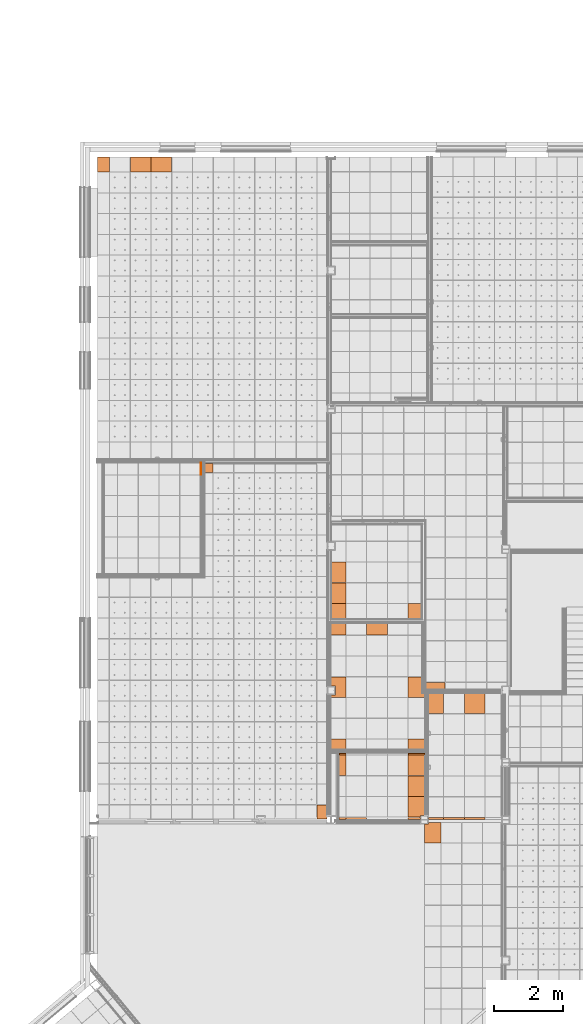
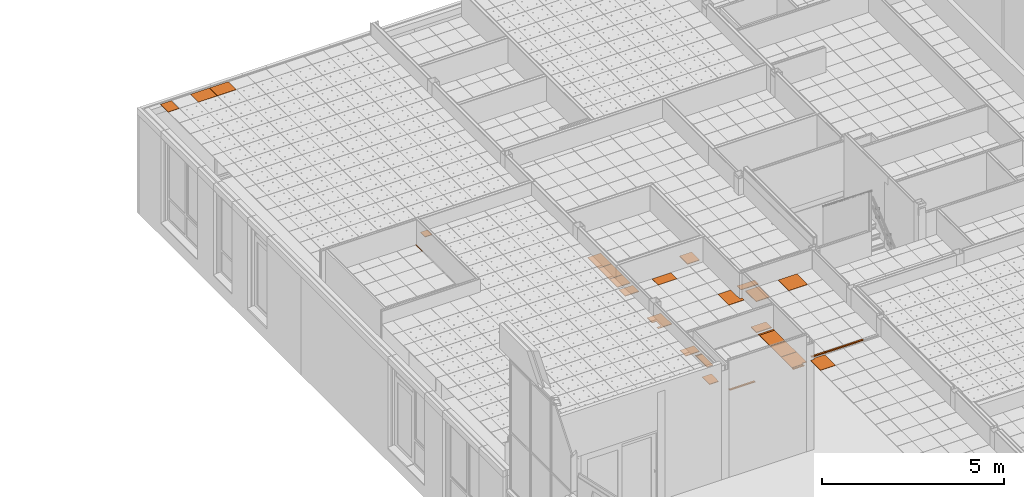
# One storey, part 332 of 338: 32 proxies, 9 elements without a shape of their own.
"""IFC2X3 building model written with IfcOpenShell, lengths in millimetres."""

from ifc_helpers import new_model, entity, si_unit, converted_unit, derived_unit, money_unit, direction, frame, origin_with_axes, place, context, subcontext, project, spatial, faceted_brep, material, type_object, element, aggregate, save


model = new_model("IFC2X3")

# Units and contexts
model_context = context("Model", 3, precision=0.01, world=origin_with_axes(), true_north=direction((0.0, 1.0)))
plan_context = context("Plan", 3, precision=0.01, world=origin_with_axes(), true_north=direction((0.0, 1.0)))
body_context = subcontext(model_context, "Body", "Model", "MODEL_VIEW")
ifc_project = project(units=[si_unit("LENGTHUNIT", "METRE", prefix="MILLI"), si_unit("AREAUNIT", "SQUARE_METRE"), si_unit("VOLUMEUNIT", "CUBIC_METRE"), converted_unit("PLANEANGLEUNIT", "DEGREE", entity("IfcPlaneAngleMeasure", 0.0174532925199), si_unit("PLANEANGLEUNIT", "RADIAN"), dimensions=[0, 0, 0, 0, 0, 0, 0]), money_unit("EUR"), converted_unit("TIMEUNIT", "Year", entity("IfcTimeMeasure", 31556926.0), si_unit("TIMEUNIT", "SECOND"), dimensions=[0, 0, 1, 0, 0, 0, 0]), si_unit("MASSUNIT", "GRAM", prefix="KILO"), si_unit("THERMODYNAMICTEMPERATUREUNIT", "DEGREE_CELSIUS"), si_unit("LUMINOUSINTENSITYUNIT", "LUMEN"), si_unit("ENERGYUNIT", "JOULE", prefix="MEGA"), derived_unit("THERMALCONDUCTANCEUNIT", [(si_unit("POWERUNIT", "WATT"), 1), (si_unit("LENGTHUNIT", "METRE"), -1), (si_unit("THERMODYNAMICTEMPERATUREUNIT", "KELVIN"), -1)]), derived_unit("SPECIFICHEATCAPACITYUNIT", [(si_unit("ENERGYUNIT", "JOULE"), 1), (si_unit("MASSUNIT", "GRAM", prefix="KILO"), -1), (si_unit("THERMODYNAMICTEMPERATUREUNIT", "KELVIN"), -1)]), derived_unit("MASSDENSITYUNIT", [(si_unit("MASSUNIT", "GRAM", prefix="KILO"), 1), (si_unit("VOLUMEUNIT", "CUBIC_METRE"), -1)])], contexts=[model_context, plan_context])

# Site, building, storey
site_placement = place(None, origin_with_axes())
site = spatial("IfcSite", under=ifc_project, at=site_placement, Name="Fortuinstraat Woensdrecht", CompositionType="ELEMENT")
building_placement = place(site_placement, origin_with_axes())
building = spatial("IfcBuilding", under=site, at=building_placement, Name="IKC Fortuna", CompositionType="ELEMENT")
storey_placement = place(building_placement, origin_with_axes())
storey = spatial("IfcBuildingStorey", under=building, at=storey_placement, Name="00 begane grond", CompositionType="ELEMENT", Elevation=0.0)

# Covering, proxies
covering_type = type_object("IfcCoveringType", Name="Curtain Wall Type", PredefinedType="CEILING")
covering_1_placement = place(storey_placement, frame((15059.4416165, 34009.703821, 3210.0), z_axis=(0.0, 0.0, 1.0), x_axis=(1.0, 0.0, 0.0)))
covering_1 = element("IfcCovering", 1, at=covering_1_placement, inside=storey, type_object=covering_type, Name="45_Plafondafwerking_P01", PredefinedType="CEILING")
ifc_material = material(Name="Gipsplaat")
building_element_proxy_type_1 = type_object("IfcBuildingElementProxyType", Name="Main Panel 600 x 437 x 20", PredefinedType="NOTDEFINED")
proxy_1_placement = place(covering_1_placement, frame((0.0, 1118.29638989, 1.7630341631e-10), z_axis=(0.0, 0.0, 1.0), x_axis=(1.0, 0.0, 0.0)))
proxy_1 = element("IfcBuildingElementProxy", 2, at=proxy_1_placement, type_object=building_element_proxy_type_1, material=ifc_material, Name="__Panel-D", context=body_context, shape_type="Brep", body=[
    faceted_brep([(297.5, 215.796387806, -10.0), (-297.5, 215.796387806, -10.0), (-297.5, 215.796387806, 9.99999999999), (297.5, 215.796387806, 9.99999999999), (297.5, -215.796389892, -10.0), (-297.5, -215.796389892, -10.0), (-297.5, -215.796389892, 9.99999999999), (297.5, -215.796389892, 9.99999999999)], [[[0, 1, 2, 3]], [[0, 4, 5, 1]], [[1, 5, 6, 2]], [[3, 2, 6, 7]], [[4, 0, 3, 7]], [[5, 4, 7, 6]]]),
])
proxy_2_placement = place(covering_1_placement, frame((600.0, 1118.29638989, 1.56763491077e-10), z_axis=(0.0, 0.0, 1.0), x_axis=(1.0, 0.0, 0.0)))
proxy_2 = element("IfcBuildingElementProxy", 3, at=proxy_2_placement, type_object=building_element_proxy_type_1, material=ifc_material, Name="__Panel-D", context=body_context, shape_type="Brep", body=[
    faceted_brep([(297.5, 215.796387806, -10.0), (-297.5, 215.796387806, -10.0), (-297.5, 215.796387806, 9.99999999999), (297.5, 215.796387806, 9.99999999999), (297.5, -215.796389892, -10.0), (-297.5, -215.796389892, -10.0), (-297.5, -215.796389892, 9.99999999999), (297.5, -215.796389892, 9.99999999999)], [[[0, 1, 2, 3]], [[0, 4, 5, 1]], [[1, 5, 6, 2]], [[3, 2, 6, 7]], [[4, 0, 3, 7]], [[5, 4, 7, 6]]]),
])
building_element_proxy_type_2 = type_object("IfcBuildingElementProxyType", Name="Main Panel 350 x 437 x 20", PredefinedType="NOTDEFINED")
proxy_3_placement = place(covering_1_placement, frame((-1075.0033381, 1118.29638989, 2.11386463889e-10), z_axis=(0.0, 0.0, 1.0), x_axis=(1.0, 0.0, 0.0)))
proxy_3 = element("IfcBuildingElementProxy", 4, at=proxy_3_placement, type_object=building_element_proxy_type_2, material=ifc_material, Name="__Panel-D", context=body_context, shape_type="Brep", body=[
    faceted_brep([(172.503338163, 215.796387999, -10.0), (-172.503344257, 215.796387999, -10.0), (-172.503344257, 215.796387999, 9.99999999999), (172.503338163, 215.796387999, 9.99999999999), (172.503338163, -215.796387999, -10.0), (-172.503331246, -215.796387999, -10.0), (-172.503331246, -215.796387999, 9.99999999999), (172.503338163, -215.796387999, 9.99999999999)], [[[0, 1, 2, 3]], [[0, 4, 5, 1]], [[1, 5, 6, 2]], [[3, 2, 6, 7]], [[4, 0, 3, 7]], [[5, 4, 7, 6]]]),
])
aggregate(covering_1, [proxy_1, proxy_2, proxy_3])

# Covering, proxy
covering_2_placement = place(storey_placement, frame((21169.4446171, 27661.0834994, 3010.0), z_axis=(0.0, 0.0, 1.0), x_axis=(1.0, 0.0, 0.0)))
covering_2 = element("IfcCovering", 5, at=covering_2_placement, inside=storey, type_object=covering_type, Name="45_Plafondafwerking_P04", PredefinedType="CEILING")
building_element_proxy_type_3 = type_object("IfcBuildingElementProxyType", Name="Distinct Panel 562 x 221 x 20", PredefinedType="NOTDEFINED")
proxy_4_placement = place(covering_2_placement, frame((2419.24516832, -7610.65954794, 0.0), z_axis=(0.0, 0.0, 1.0), x_axis=(1.0, 0.0, 0.0)))
proxy_4 = element("IfcBuildingElementProxy", 6, at=proxy_4_placement, type_object=building_element_proxy_type_3, material=ifc_material, Name="__Panel-D", context=body_context, shape_type="Brep", body=[
    faceted_brep([(-278.254811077, 108.159550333, -10.0), (-278.254811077, 108.159550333, 9.99999999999), (278.254834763, 108.159550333, 9.99999999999), (278.254834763, 108.159550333, -10.0), (-278.254852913, -108.159551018, -10.0), (-278.254852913, -108.159551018, 9.99999999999), (278.254834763, -108.159551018, 9.99999999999), (278.254834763, -108.159551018, -10.0)], [[[0, 1, 2, 3]], [[4, 5, 1, 0]], [[1, 5, 6, 2]], [[3, 2, 6, 7]], [[0, 3, 7, 4]], [[7, 6, 5, 4]]]),
])
aggregate(covering_2, [proxy_4])

covering_3_placement = place(storey_placement, frame((14689.4846177, 25257.3287491, 2810.0), z_axis=(0.0, 0.0, 1.0), x_axis=(1.0, 0.0, 0.0)))
covering_3 = element("IfcCovering", 7, at=covering_3_placement, inside=storey, type_object=covering_type, Name="45_Plafondafwerking_P02", PredefinedType="CEILING")
building_element_proxy_type_4 = type_object("IfcBuildingElementProxyType", Name="Distinct Panel 26 x 350 x 20", PredefinedType="NOTDEFINED")
proxy_5_placement = place(covering_3_placement, frame((2113.02414943, 1074.89113845, 0.0), z_axis=(0.0, 0.0, 1.0), x_axis=(1.0, 0.0, 0.0)))
proxy_5 = element("IfcBuildingElementProxy", 8, at=proxy_5_placement, type_object=building_element_proxy_type_4, material=ifc_material, Name="__Panel-D", context=body_context, shape_type="Brep", body=[
    faceted_brep([(-10.5241503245, 172.391138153, -10.0), (-10.5241503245, 172.391138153, 10.0), (10.5241491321, 172.391138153, 10.0), (10.5241491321, 172.391138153, -10.0), (-10.5241503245, -172.391138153, -10.0), (-10.5241503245, -172.391138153, 10.0), (10.5241491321, -172.391138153, 10.0), (10.5241491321, -172.391138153, -10.0)], [[[0, 1, 2, 3]], [[4, 5, 1, 0]], [[1, 5, 6, 2]], [[3, 2, 6, 7]], [[0, 3, 7, 4]], [[7, 6, 5, 4]]]),
])
aggregate(covering_3, [proxy_5])

# Covering, proxies
covering_4_placement = place(storey_placement, frame((20894.5342271, 16221.6737522, 2810.0), z_axis=(0.0, 0.0, 1.0), x_axis=(1.0, 0.0, 0.0)))
covering_4 = element("IfcCovering", 9, at=covering_4_placement, inside=storey, type_object=covering_type, Name="45_Plafondafwerking_P02", PredefinedType="CEILING")
building_element_proxy_type_5 = type_object("IfcBuildingElementProxyType", Name="Distinct Panel 200 x 67 x 20", PredefinedType="NOTDEFINED")
proxy_6_placement = place(covering_4_placement, origin_with_axes())
proxy_6 = element("IfcBuildingElementProxy", 10, at=proxy_6_placement, type_object=building_element_proxy_type_5, material=ifc_material, Name="__Panel-D", context=body_context, shape_type="Brep", body=[
    faceted_brep([(-97.5000008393, 30.7580425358, -10.0), (-97.5000008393, 30.7580425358, 9.99999999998), (97.5000008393, 30.7580425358, 9.99999999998), (97.5000008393, 30.7580425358, -10.0), (-97.5000008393, -30.7580423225, -10.0), (-97.5000008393, -30.7580423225, 9.99999999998), (97.5000008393, -30.7580423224, 9.99999999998), (97.5000008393, -30.7580423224, -10.0)], [[[0, 1, 2, 3]], [[4, 5, 1, 0]], [[1, 5, 6, 2]], [[3, 2, 6, 7]], [[0, 3, 7, 4]], [[7, 6, 5, 4]]]),
])
building_element_proxy_type_6 = type_object("IfcBuildingElementProxyType", Name="Distinct Panel 200 x 600 x 20", PredefinedType="NOTDEFINED")
proxy_7_placement = place(covering_4_placement, frame((0.0, 1533.25804234, 0.0), z_axis=(0.0, 0.0, 1.0), x_axis=(1.0, 0.0, 0.0)))
proxy_7 = element("IfcBuildingElementProxy", 11, at=proxy_7_placement, type_object=building_element_proxy_type_6, material=ifc_material, Name="__Panel-D", context=body_context, shape_type="Brep", body=[
    faceted_brep([(-97.4999991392, 297.5, -10.0), (-97.4999991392, 297.5, 9.99999999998), (97.5000008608, 297.5, 9.99999999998), (97.5000008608, 297.5, -10.0), (-97.4999991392, -297.5, -10.0), (-97.4999991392, -297.5, 9.99999999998), (97.5000008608, -297.5, 9.99999999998), (97.5000008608, -297.5, -10.0)], [[[0, 1, 2, 3]], [[4, 5, 1, 0]], [[1, 5, 6, 2]], [[3, 2, 6, 7]], [[0, 3, 7, 4]], [[7, 6, 5, 4]]]),
])
building_element_proxy_type_7 = type_object("IfcBuildingElementProxyType", Name="Distinct Panel 200 x 50 x 20", PredefinedType="NOTDEFINED")
proxy_8_placement = place(covering_4_placement, frame((0.0, 1858.24793121, 0.0), z_axis=(0.0, 0.0, 1.0), x_axis=(1.0, 0.0, 0.0)))
proxy_8 = element("IfcBuildingElementProxy", 12, at=proxy_8_placement, type_object=building_element_proxy_type_7, material=ifc_material, Name="__Panel-D", context=body_context, shape_type="Brep", body=[
    faceted_brep([(-97.5000008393, 22.4898966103, -10.0), (-97.5000008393, 22.4898966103, 9.99999999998), (97.5000008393, 22.4898817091, 9.99999999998), (97.5000008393, 22.4898817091, -10.0), (-97.5000008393, -22.4898888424, -10.0), (-97.5000008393, -22.4898888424, 9.99999999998), (97.5000008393, -22.4898888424, 9.99999999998), (97.5000008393, -22.4898888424, -10.0)], [[[0, 1, 2, 3]], [[4, 5, 1, 0]], [[1, 5, 6, 2]], [[3, 2, 6, 7]], [[0, 3, 7, 4]], [[7, 6, 5, 4]]]),
])
building_element_proxy_type_8 = type_object("IfcBuildingElementProxyType", Name="Distinct Panel 488 x 600 x 20", PredefinedType="NOTDEFINED")
proxy_9_placement = place(covering_4_placement, frame((2144.20037203, 933.258042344, 0.0), z_axis=(0.0, 0.0, 1.0), x_axis=(1.0, 0.0, 0.0)))
proxy_9 = element("IfcBuildingElementProxy", 13, at=proxy_9_placement, type_object=building_element_proxy_type_8, material=ifc_material, Name="__Panel-D", context=body_context, shape_type="Brep", body=[
    faceted_brep([(-241.700369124, 297.5, -10.0), (-241.700369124, 297.5, 9.99999999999), (241.700371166, 297.5, 9.99999999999), (241.700371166, 297.5, -10.0), (-241.700369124, -297.5, -10.0), (-241.700369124, -297.5, 9.99999999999), (241.700371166, -297.5, 9.99999999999), (241.700371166, -297.5, -10.0)], [[[0, 1, 2, 3]], [[4, 5, 1, 0]], [[1, 5, 6, 2]], [[3, 2, 6, 7]], [[0, 3, 7, 4]], [[7, 6, 5, 4]]]),
])
proxy_10_placement = place(covering_4_placement, frame((2144.20037203, 1533.25804234, 0.0), z_axis=(0.0, 0.0, 1.0), x_axis=(1.0, 0.0, 0.0)))
proxy_10 = element("IfcBuildingElementProxy", 14, at=proxy_10_placement, type_object=building_element_proxy_type_8, material=ifc_material, Name="__Panel-D", context=body_context, shape_type="Brep", body=[
    faceted_brep([(-241.700369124, 297.5, -10.0), (-241.700369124, 297.5, 9.99999999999), (241.700371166, 297.5, 9.99999999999), (241.700371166, 297.5, -10.0), (-241.700369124, -297.5, -10.0), (-241.700369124, -297.5, 9.99999999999), (241.700371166, -297.5, 9.99999999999), (241.700371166, -297.5, -10.0)], [[[0, 1, 2, 3]], [[4, 5, 1, 0]], [[1, 5, 6, 2]], [[3, 2, 6, 7]], [[0, 3, 7, 4]], [[7, 6, 5, 4]]]),
])
building_element_proxy_type_9 = type_object("IfcBuildingElementProxyType", Name="Distinct Panel 488 x 550 x 20", PredefinedType="NOTDEFINED")
proxy_11_placement = place(covering_4_placement, frame((2180.60050088, 249.879658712, 0.0), z_axis=(0.0, 0.0, 1.0), x_axis=(1.0, 0.0, 0.0)))
proxy_11 = element("IfcBuildingElementProxy", 15, at=proxy_11_placement, type_object=building_element_proxy_type_9, material=ifc_material, Name="__Panel-D", context=body_context, shape_type="Brep", body=[
    faceted_brep([(-278.100497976, 380.878383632, -10.0), (-278.100497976, 380.878383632, 9.99999999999), (205.300242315, 380.878383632, 9.99999999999), (205.300242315, 380.878383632, -10.0), (-278.100497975, -214.121616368, -10.0), (-278.100497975, -214.121616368, 9.99999999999), (70.3002601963, -214.121616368, 9.99999999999), (70.3002601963, -164.256764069, 9.99999999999), (205.300242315, -164.256764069, 9.99999999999), (205.300242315, -164.256764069, -10.0), (70.3002601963, -164.256764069, -10.0), (70.3002601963, -214.121616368, -10.0)], [[[0, 1, 2, 3]], [[4, 5, 1, 0]], [[1, 5, 6, 7, 8, 2]], [[3, 2, 8, 9]], [[0, 3, 9, 10, 11, 4]], [[11, 6, 5, 4]], [[10, 7, 6, 11]], [[9, 8, 7, 10]]]),
])
building_element_proxy_type_10 = type_object("IfcBuildingElementProxyType", Name="Distinct Panel 488 x 50 x 20", PredefinedType="NOTDEFINED")
proxy_12_placement = place(covering_4_placement, frame((2144.20037203, 1858.24794073, 0.0), z_axis=(0.0, 0.0, 1.0), x_axis=(1.0, 0.0, 0.0)))
proxy_12 = element("IfcBuildingElementProxy", 16, at=proxy_12_placement, type_object=building_element_proxy_type_10, material=ifc_material, Name="__Panel-D", context=body_context, shape_type="Brep", body=[
    faceted_brep([(-241.700371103, 22.4898997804, -10.0), (-241.700371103, 22.4898997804, 9.99999999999), (241.700371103, 22.4898997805, 9.99999999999), (241.700371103, 22.4898997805, -10.0), (-241.700371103, -22.4898983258, -10.0), (-241.700371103, -22.4898983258, 9.99999999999), (241.700371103, -22.4898983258, 9.99999999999), (241.700371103, -22.4898983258, -10.0)], [[[0, 1, 2, 3]], [[4, 5, 1, 0]], [[1, 5, 6, 2]], [[3, 2, 6, 7]], [[0, 3, 7, 4]], [[7, 6, 5, 4]]]),
])
building_element_proxy_type_11 = type_object("IfcBuildingElementProxyType", Name="Distinct Panel 600 x 67 x 20", PredefinedType="NOTDEFINED")
proxy_13_placement = place(covering_4_placement, frame((400.000000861, 3.9525076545e-06, 0.0), z_axis=(0.0, 0.0, 1.0), x_axis=(1.0, 0.0, 0.0)))
proxy_13 = element("IfcBuildingElementProxy", 17, at=proxy_13_placement, type_object=building_element_proxy_type_11, material=ifc_material, Name="__Panel-D", context=body_context, shape_type="Brep", body=[
    faceted_brep([(-297.5, 30.7580380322, -10.0), (-297.5, 30.7580380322, 9.99999999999), (297.5, 30.7580380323, 9.99999999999), (297.5, 30.7580380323, -10.0), (-297.5, -30.7580462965, -10.0), (-297.5, -30.7580462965, 9.99999999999), (297.5, -30.7580284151, 9.99999999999), (297.5, -30.7580284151, -10.0)], [[[0, 1, 2, 3]], [[4, 5, 1, 0]], [[1, 5, 6, 2]], [[3, 2, 6, 7]], [[0, 3, 7, 4]], [[7, 6, 5, 4]]]),
])
building_element_proxy_type_12 = type_object("IfcBuildingElementProxyType", Name="Distinct Panel 353 x 67 x 20", PredefinedType="NOTDEFINED")
proxy_14_placement = place(covering_4_placement, frame((2076.70037972, 6.1705236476e-06, 0.0), z_axis=(0.0, 0.0, 1.0), x_axis=(1.0, 0.0, 0.0)))
proxy_14 = element("IfcBuildingElementProxy", 18, at=proxy_14_placement, type_object=building_element_proxy_type_12, material=ifc_material, Name="__Panel-D", context=body_context, shape_type="Brep", body=[
    faceted_brep([(-174.200377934, 30.7580371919, -10.0), (-174.200377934, 30.7580371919, 9.99999999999), (174.200377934, 30.7580371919, 9.99999999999), (174.200377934, 30.7580371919, -10.0), (-174.200377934, -30.7580334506, -10.0), (-174.200377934, -30.7580334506, 9.99999999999), (174.200377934, -30.7580387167, 9.99999999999), (174.200377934, -30.7580387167, -10.0)], [[[0, 1, 2, 3]], [[4, 5, 1, 0]], [[1, 5, 6, 2]], [[3, 2, 6, 7]], [[0, 3, 7, 4]], [[7, 6, 5, 4]]]),
])
aggregate(covering_4, [proxy_6, proxy_7, proxy_8, proxy_9, proxy_10, proxy_11, proxy_12, proxy_13, proxy_14])

covering_5_placement = place(storey_placement, frame((20708.834778, 24017.7308613, 2810.0), z_axis=(0.0, 0.0, 1.0), x_axis=(1.0, 0.0, 0.0)))
covering_5 = element("IfcCovering", 19, at=covering_5_placement, inside=storey, type_object=covering_type, Name="45_Plafondafwerking_P02", PredefinedType="CEILING")
building_element_proxy_type_13 = type_object("IfcBuildingElementProxyType", Name="Distinct Panel 418 x 600 x 20", PredefinedType="NOTDEFINED")
proxy_15_placement = place(covering_5_placement, frame((76.8998179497, -679.565768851, 0.0), z_axis=(0.0, 0.0, 1.0), x_axis=(1.0, 0.0, 0.0)))
proxy_15 = element("IfcBuildingElementProxy", 20, at=proxy_15_placement, type_object=building_element_proxy_type_13, material=ifc_material, Name="__Panel-D", context=body_context, shape_type="Brep", body=[
    faceted_brep([(206.299628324, 297.5, -10.0), (-206.299631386, 297.5, -10.0), (-206.299631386, 297.5, 9.99999999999), (206.299628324, 297.5, 9.99999999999), (206.299628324, -297.5, -10.0), (-206.299631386, -297.5, -10.0), (-206.299631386, -297.5, 9.99999999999), (206.299628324, -297.5, 9.99999999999)], [[[0, 1, 2, 3]], [[0, 4, 5, 1]], [[1, 5, 6, 2]], [[3, 2, 6, 7]], [[4, 0, 3, 7]], [[5, 4, 7, 6]]]),
])
proxy_16_placement = place(covering_5_placement, frame((76.8998203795, -1279.56576885, 0.0), z_axis=(0.0, 0.0, 1.0), x_axis=(1.0, 0.0, 0.0)))
proxy_16 = element("IfcBuildingElementProxy", 21, at=proxy_16_placement, type_object=building_element_proxy_type_13, material=ifc_material, Name="__Panel-D", context=body_context, shape_type="Brep", body=[
    faceted_brep([(206.299625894, 297.5, -10.0), (-206.299633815, 297.5, -10.0), (-206.299633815, 297.5, 9.99999999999), (206.299625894, 297.5, 9.99999999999), (206.299625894, -297.5, -10.0), (-206.299624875, -297.5, -10.0), (-206.299624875, -297.5, 9.99999999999), (206.299625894, -297.5, 9.99999999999)], [[[0, 1, 2, 3]], [[0, 4, 5, 1]], [[1, 5, 6, 2]], [[3, 2, 6, 7]], [[4, 0, 3, 7]], [[5, 4, 7, 6]]]),
])
building_element_proxy_type_14 = type_object("IfcBuildingElementProxyType", Name="Distinct Panel 388 x 450 x 20", PredefinedType="NOTDEFINED")
proxy_17_placement = place(covering_5_placement, frame((2279.89983351, -1804.57871849, 0.0), z_axis=(0.0, 0.0, 1.0), x_axis=(1.0, 0.0, 0.0)))
proxy_17 = element("IfcBuildingElementProxy", 22, at=proxy_17_placement, type_object=building_element_proxy_type_14, material=ifc_material, Name="__Panel-D", context=body_context, shape_type="Brep", body=[
    faceted_brep([(191.700385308, 222.512951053, -10.0), (-191.700385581, 222.512951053, -10.0), (-191.700385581, 222.512951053, 9.99999999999), (191.700385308, 222.512951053, 9.99999999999), (191.700385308, -222.512951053, -10.0), (-191.700385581, -222.512951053, -10.0), (-191.700385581, -222.512951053, 9.99999999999), (191.700385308, -222.512951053, 9.99999999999)], [[[0, 1, 2, 3]], [[0, 4, 5, 1]], [[1, 5, 6, 2]], [[3, 2, 6, 7]], [[4, 0, 3, 7]], [[5, 4, 7, 6]]]),
])
building_element_proxy_type_15 = type_object("IfcBuildingElementProxyType", Name="Distinct Panel 418 x 450 x 20", PredefinedType="NOTDEFINED")
proxy_18_placement = place(covering_5_placement, frame((76.8998228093, -1804.57872316, 0.0), z_axis=(0.0, 0.0, 1.0), x_axis=(1.0, 0.0, 0.0)))
proxy_18 = element("IfcBuildingElementProxy", 23, at=proxy_18_placement, type_object=building_element_proxy_type_15, material=ifc_material, Name="__Panel-D", context=body_context, shape_type="Brep", body=[
    faceted_brep([(206.299625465, 222.512955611, -10.0), (-206.299627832, 222.512955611, -10.0), (-206.299627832, 222.512955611, 9.99999999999), (206.299625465, 222.512955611, 9.99999999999), (206.299625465, -222.512944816, -10.0), (-206.299627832, -222.512964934, -10.0), (-206.299627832, -222.512964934, 9.99999999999), (206.299625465, -222.512944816, 9.99999999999)], [[[0, 1, 2, 3]], [[0, 4, 5, 1]], [[1, 5, 6, 2]], [[3, 2, 6, 7]], [[4, 0, 3, 7]], [[5, 4, 7, 6]]]),
])
aggregate(covering_5, [proxy_15, proxy_17, proxy_18, proxy_16])

covering_6_placement = place(storey_placement, frame((21294.5342274, 19421.5253195, 2810.0), z_axis=(0.0, 0.0, 1.0), x_axis=(1.0, 0.0, 0.0)))
covering_6 = element("IfcCovering", 24, at=covering_6_placement, inside=storey, type_object=covering_type, Name="45_Plafondafwerking_P02", PredefinedType="CEILING")
building_element_proxy_type_16 = type_object("IfcBuildingElementProxyType", Name="Distinct Panel 488 x 317 x 20", PredefinedType="NOTDEFINED")
proxy_19_placement = place(covering_6_placement, frame((1744.2003797, -1058.30688358, 0.0), z_axis=(0.0, 0.0, 1.0), x_axis=(1.0, 0.0, 0.0)))
proxy_19 = element("IfcBuildingElementProxy", 25, at=proxy_19_placement, type_object=building_element_proxy_type_16, material=ifc_material, Name="__Panel-D", context=body_context, shape_type="Brep", body=[
    faceted_brep([(241.700370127, 155.806881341, -10.0), (-241.700379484, 155.806881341, -10.0), (-241.700379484, 155.806881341, 9.99999999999), (241.700370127, 155.806881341, 9.99999999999), (241.70039196, -155.806883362, -10.0), (-241.700379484, -155.806883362, -10.0), (-241.700379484, -155.806883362, 9.99999999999), (241.70039196, -155.806883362, 9.99999999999)], [[[0, 1, 2, 3]], [[0, 4, 5, 1]], [[1, 5, 6, 2]], [[3, 2, 6, 7]], [[4, 0, 3, 7]], [[5, 4, 7, 6]]]),
])
building_element_proxy_type_17 = type_object("IfcBuildingElementProxyType", Name="Distinct Panel 413 x 600 x 20", PredefinedType="NOTDEFINED")
proxy_20_placement = place(covering_6_placement, frame((1800.60049124, 539.413029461, 0.0), z_axis=(0.0, 0.0, 1.0), x_axis=(1.0, 0.0, 0.0)))
proxy_20 = element("IfcBuildingElementProxy", 26, at=proxy_20_placement, type_object=building_element_proxy_type_17, material=ifc_material, Name="__Panel-D", context=body_context, shape_type="Brep", body=[
    faceted_brep([(110.300231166, 358.086970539, -10.0), (-298.100491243, 358.086970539, -10.0), (-298.100491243, 358.086970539, 9.99999999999), (110.300231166, 358.086970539, 9.99999999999), (110.300231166, -123.673937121, -10.0), (185.300257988, -123.673937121, -10.0), (185.300257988, -236.913029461, -10.0), (-298.100491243, -236.913029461, -10.0), (-298.100491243, -236.913029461, 9.99999999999), (185.300257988, -236.913029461, 9.99999999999), (185.300257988, -123.673937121, 9.99999999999), (110.300231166, -123.673937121, 9.99999999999)], [[[0, 1, 2, 3]], [[0, 4, 5, 6, 7, 1]], [[1, 7, 8, 2]], [[3, 2, 8, 9, 10, 11]], [[4, 0, 3, 11]], [[5, 4, 11, 10]], [[6, 5, 10, 9]], [[7, 6, 9, 8]]]),
])
building_element_proxy_type_18 = type_object("IfcBuildingElementProxyType", Name="Distinct Panel 600 x 342 x 20", PredefinedType="NOTDEFINED")
proxy_21_placement = place(covering_6_placement, frame((600.0, 2270.80692216, 0.0), z_axis=(0.0, 0.0, 1.0), x_axis=(1.0, 0.0, 0.0)))
proxy_21 = element("IfcBuildingElementProxy", 27, at=proxy_21_placement, type_object=building_element_proxy_type_18, material=ifc_material, Name="__Panel-D", context=body_context, shape_type="Brep", body=[
    faceted_brep([(297.5, 168.306919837, -10.0), (-297.5, 168.306919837, -10.0), (-297.5, 168.306919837, 9.99999999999), (297.5, 168.306919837, 9.99999999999), (297.5, -168.306922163, -10.0), (-297.5, -168.306922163, -10.0), (-297.5, -168.306922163, 9.99999999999), (297.5, -168.306922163, 9.99999999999)], [[[0, 1, 2, 3]], [[0, 4, 5, 1]], [[1, 5, 6, 2]], [[3, 2, 6, 7]], [[4, 0, 3, 7]], [[5, 4, 7, 6]]]),
])
building_element_proxy_type_19 = type_object("IfcBuildingElementProxyType", Name="Distinct Panel 443 x 277 x 20", PredefinedType="NOTDEFINED")
proxy_22_placement = place(covering_6_placement, frame((-598.199446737, 550.385645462, 0.0), z_axis=(0.0, 0.0, 1.0), x_axis=(1.0, 0.0, 0.0)))
proxy_22 = element("IfcBuildingElementProxy", 28, at=proxy_22_placement, type_object=building_element_proxy_type_19, material=ifc_material, Name="__Panel-D", context=body_context, shape_type="Brep", body=[
    faceted_brep([(295.699450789, 347.114354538, -10.0), (-141.899817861, 347.114354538, -10.0), (-141.899817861, 347.114354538, 9.99999999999), (295.699450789, 347.114354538, 9.99999999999), (295.699450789, -247.885645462, -10.0), (-141.899817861, -247.885645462, -10.0), (-141.899817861, -174.614348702, -10.0), (-6.8998089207, -174.614348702, -10.0), (-6.89980892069, 75.3856423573, -10.0), (-141.899817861, 75.3856423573, -10.0), (-141.899817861, 75.3856423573, 9.99999999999), (-6.89980892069, 75.3856423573, 9.99999999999), (-6.8998089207, -174.614348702, 9.99999999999), (-141.899817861, -174.614348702, 9.99999999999), (-141.899817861, -247.885645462, 9.99999999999), (295.699450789, -247.885645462, 9.99999999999)], [[[0, 1, 2, 3]], [[0, 4, 5, 6, 7, 8, 9, 1]], [[1, 9, 10, 2]], [[3, 2, 10, 11, 12, 13, 14, 15]], [[4, 0, 3, 15]], [[5, 4, 15, 14]], [[6, 5, 14, 13]], [[7, 6, 13, 12]], [[8, 7, 12, 11]], [[9, 8, 11, 10]]]),
])
building_element_proxy_type_20 = type_object("IfcBuildingElementProxyType", Name="Distinct Panel 443 x 342 x 20", PredefinedType="NOTDEFINED")
proxy_23_placement = place(covering_6_placement, frame((-521.299629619, 2270.80692216, 0.0), z_axis=(0.0, 0.0, 1.0), x_axis=(1.0, 0.0, 0.0)))
proxy_23 = element("IfcBuildingElementProxy", 29, at=proxy_23_placement, type_object=building_element_proxy_type_20, material=ifc_material, Name="__Panel-D", context=body_context, shape_type="Brep", body=[
    faceted_brep([(218.799627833, 168.306919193, -10.0), (-218.799626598, 168.306919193, -10.0), (-218.799626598, 168.306919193, 9.99999999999), (218.799627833, 168.306919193, 9.99999999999), (218.799627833, -168.306920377, -10.0), (-218.799633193, -168.306920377, -10.0), (-218.799633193, -168.306920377, 9.99999999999), (218.799627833, -168.306920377, 9.99999999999)], [[[0, 1, 2, 3]], [[0, 4, 5, 1]], [[1, 5, 6, 2]], [[3, 2, 6, 7]], [[4, 0, 3, 7]], [[5, 4, 7, 6]]]),
])
building_element_proxy_type_21 = type_object("IfcBuildingElementProxyType", Name="Distinct Panel 443 x 317 x 20", PredefinedType="NOTDEFINED")
proxy_24_placement = place(covering_6_placement, frame((-521.299636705, -1058.30687837, 0.0), z_axis=(0.0, 0.0, 1.0), x_axis=(1.0, 0.0, 0.0)))
proxy_24 = element("IfcBuildingElementProxy", 30, at=proxy_24_placement, type_object=building_element_proxy_type_21, material=ifc_material, Name="__Panel-D", context=body_context, shape_type="Brep", body=[
    faceted_brep([(218.79963487, 155.806881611, -10.0), (-218.79963487, 155.806881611, -10.0), (-218.79963487, 155.806881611, 9.99999999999), (218.79963487, 155.806881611, 9.99999999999), (218.79963487, -155.806886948, -10.0), (-218.79963487, -155.806867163, -10.0), (-218.79963487, -155.806867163, 9.99999999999), (218.79963487, -155.806886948, 9.99999999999)], [[[0, 1, 2, 3]], [[0, 4, 5, 1]], [[1, 5, 6, 2]], [[3, 2, 6, 7]], [[4, 0, 3, 7]], [[5, 4, 7, 6]]]),
])
aggregate(covering_6, [proxy_19, proxy_20, proxy_21, proxy_22, proxy_23, proxy_24])

covering_7_placement = place(storey_placement, frame((17451.9845996, 24118.5314449, 3210.0), z_axis=(0.0, 0.0, 1.0), x_axis=(1.0, 0.0, 0.0)))
covering_7 = element("IfcCovering", 31, at=covering_7_placement, inside=storey, type_object=covering_type, Name="45_Plafondafwerking_P01", PredefinedType="CEILING")
building_element_proxy_type_22 = type_object("IfcBuildingElementProxyType", Name="300 x 410 x 20", PredefinedType="NOTDEFINED")
proxy_25_placement = place(covering_7_placement, frame((2898.30027932, -7742.98989548, 0.0), z_axis=(0.0, 0.0, 1.0), x_axis=(1.0, 0.0, 0.0)))
proxy_25 = element("IfcBuildingElementProxy", 32, at=proxy_25_placement, type_object=building_element_proxy_type_22, material=ifc_material, Name="__600x735 Rockfon Krios", context=body_context, shape_type="Brep", body=[
    faceted_brep([(99.1501465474, 240.489894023, -10.0), (-195.80027786, 240.489894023, -10.0), (-195.80027786, 240.489894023, 9.99999999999), (99.1501465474, 240.489894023, 9.99999999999), (99.1501587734, -73.2449573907, -10.0), (94.1501252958, -73.2449573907, -10.0), (94.1501252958, -164.744933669, -10.0), (-195.80027786, -164.744933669, -10.0), (-195.80027786, -164.744933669, 9.99999999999), (94.1501252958, -164.744933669, 9.99999999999), (94.1501252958, -73.2449573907, 9.99999999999), (99.1501587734, -73.2449573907, 9.99999999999)], [[[0, 1, 2, 3]], [[0, 4, 5, 6, 7, 1]], [[1, 7, 8, 2]], [[3, 2, 8, 9, 10, 11]], [[4, 0, 3, 11]], [[5, 4, 11, 10]], [[6, 5, 10, 9]], [[7, 6, 9, 8]]]),
])
building_element_proxy_type_23 = type_object("IfcBuildingElementProxyType", Name="232 x 264 x 20", PredefinedType="NOTDEFINED")
proxy_26_placement = place(covering_7_placement, frame((-416.225174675, 2231.78982909, 1.11466391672e-10), z_axis=(0.0, 0.0, 1.0), x_axis=(1.0, 0.0, 0.0)))
proxy_26 = element("IfcBuildingElementProxy", 33, at=proxy_26_placement, type_object=building_element_proxy_type_23, material=ifc_material, Name="__600x754 Rockfon Krios", context=body_context, shape_type="Brep", body=[
    faceted_brep([(113.725175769, 129.289830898, -10.0), (-113.725152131, 129.289830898, -10.0), (-113.725152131, 129.289830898, 10.0), (113.725175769, 129.289830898, 10.0), (113.725175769, -129.289830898, -10.0), (-113.725199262, -129.289830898, -10.0), (-113.725199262, -129.289830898, 10.0), (113.725175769, -129.289830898, 10.0)], [[[0, 1, 2, 3]], [[0, 4, 5, 1]], [[1, 5, 6, 2]], [[3, 2, 6, 7]], [[4, 0, 3, 7]], [[5, 4, 7, 6]]]),
])
aggregate(covering_7, [proxy_25, proxy_26])

covering_8_placement = place(storey_placement, frame((25258.7056243, 17147.3582181, 3010.0), z_axis=(0.0, 0.0, 1.0), x_axis=(1.0, 0.0, 0.0)))
covering_8 = element("IfcCovering", 34, at=covering_8_placement, inside=storey, type_object=covering_type, Name="45_Plafondafwerking_P04", PredefinedType="CEILING")
building_element_proxy_type_24 = type_object("IfcBuildingElementProxyType", Name="Distinct Panel 600 x 592 x 20", PredefinedType="NOTDEFINED")
proxy_27_placement = place(covering_8_placement, frame((-539.22934449, 2396.20309437, 0.0), z_axis=(0.0, 0.0, 1.0), x_axis=(1.0, 0.0, 0.0)))
proxy_27 = element("IfcBuildingElementProxy", 35, at=proxy_27_placement, type_object=building_element_proxy_type_24, material=ifc_material, Name="__Panel-D", context=body_context, shape_type="Brep", body=[
    faceted_brep([(-297.5, 293.703090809, -10.0), (-297.5, 293.703090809, 9.99999999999), (297.5, 293.703090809, 9.99999999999), (297.5, 293.703090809, -10.0), (-297.5, -293.703094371, -10.0), (-297.5, -293.703094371, 9.99999999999), (297.5, -293.703094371, 9.99999999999), (297.5, -293.703094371, -10.0)], [[[0, 1, 2, 3]], [[4, 5, 1, 0]], [[1, 5, 6, 2]], [[3, 2, 6, 7]], [[0, 3, 7, 4]], [[7, 6, 5, 4]]]),
])
building_element_proxy_type_25 = type_object("IfcBuildingElementProxyType", Name="Distinct Panel 600 x 65 x 20", PredefinedType="NOTDEFINED")
proxy_28_placement = place(covering_8_placement, frame((-539.22934449, -932.530789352, 0.0), z_axis=(0.0, 0.0, 1.0), x_axis=(1.0, 0.0, 0.0)))
proxy_28 = element("IfcBuildingElementProxy", 36, at=proxy_28_placement, type_object=building_element_proxy_type_25, material=ifc_material, Name="__Panel-D", context=body_context, shape_type="Brep", body=[
    faceted_brep([(-297.5, 30.0307852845, -10.0), (-297.5, 30.0307852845, 9.99999999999), (297.5, 30.0307852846, 9.99999999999), (297.5, 30.0307852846, -10.0), (-297.5, -30.0307893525, -10.0), (-297.5, -30.0307893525, 9.99999999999), (297.5, -30.0307893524, 9.99999999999), (297.5, -30.0307893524, -10.0)], [[[0, 1, 2, 3]], [[4, 5, 1, 0]], [[1, 5, 6, 2]], [[3, 2, 6, 7]], [[0, 3, 7, 4]], [[7, 6, 5, 4]]]),
])
proxy_29_placement = place(covering_8_placement, frame((-1139.22934449, -932.530789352, 0.0), z_axis=(0.0, 0.0, 1.0), x_axis=(1.0, 0.0, 0.0)))
proxy_29 = element("IfcBuildingElementProxy", 37, at=proxy_29_placement, type_object=building_element_proxy_type_25, material=ifc_material, Name="__Panel-D", context=body_context, shape_type="Brep", body=[
    faceted_brep([(-297.5, 30.0307852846, -10.0), (-297.5, 30.0307852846, 9.99999999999), (297.5, 30.0307852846, 9.99999999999), (297.5, 30.0307852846, -10.0), (-297.5, -30.0307893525, -10.0), (-297.5, -30.0307893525, 9.99999999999), (297.5, -30.0307893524, 9.99999999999), (297.5, -30.0307893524, -10.0)], [[[0, 1, 2, 3]], [[4, 5, 1, 0]], [[1, 5, 6, 2]], [[3, 2, 6, 7]], [[0, 3, 7, 4]], [[7, 6, 5, 4]]]),
])
building_element_proxy_type_26 = type_object("IfcBuildingElementProxyType", Name="Distinct Panel 437 x 592 x 20", PredefinedType="NOTDEFINED")
proxy_30_placement = place(covering_8_placement, frame((-1657.49998892, 2396.2031037, 0.0), z_axis=(0.0, 0.0, 1.0), x_axis=(1.0, 0.0, 0.0)))
proxy_30 = element("IfcBuildingElementProxy", 38, at=proxy_30_placement, type_object=building_element_proxy_type_26, material=ifc_material, Name="__Panel-D", context=body_context, shape_type="Brep", body=[
    faceted_brep([(-215.770648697, 293.703125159, -10.0), (-215.770648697, 293.703125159, 9.99999999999), (215.77064722, 293.703081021, 9.99999999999), (215.77064722, 293.703081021, -10.0), (-215.770648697, -293.703106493, -10.0), (-215.770648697, -293.703106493, 9.99999999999), (215.77064722, -293.703106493, 9.99999999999), (215.77064722, -293.703106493, -10.0)], [[[0, 1, 2, 3]], [[4, 5, 1, 0]], [[1, 5, 6, 2]], [[3, 2, 6, 7]], [[0, 3, 7, 4]], [[7, 6, 5, 4]]]),
])
building_element_proxy_type_27 = type_object("IfcBuildingElementProxyType", Name="Distinct Panel 437 x 65 x 20", PredefinedType="NOTDEFINED")
proxy_31_placement = place(covering_8_placement, frame((-1657.49998278, -932.530789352, 0.0), z_axis=(0.0, 0.0, 1.0), x_axis=(1.0, 0.0, 0.0)))
proxy_31 = element("IfcBuildingElementProxy", 39, at=proxy_31_placement, type_object=building_element_proxy_type_27, material=ifc_material, Name="__Panel-D", context=body_context, shape_type="Brep", body=[
    faceted_brep([(-215.770640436, 30.0307925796, -10.0), (-215.770640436, 30.0307925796, 9.99999999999), (215.770638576, 30.0307925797, 9.99999999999), (215.770638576, 30.0307925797, -10.0), (-215.770633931, -30.0307896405, -10.0), (-215.770633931, -30.0307896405, 9.99999999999), (215.770638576, -30.0307896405, 9.99999999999), (215.770638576, -30.0307896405, -10.0)], [[[0, 1, 2, 3]], [[4, 5, 1, 0]], [[1, 5, 6, 2]], [[3, 2, 6, 7]], [[0, 3, 7, 4]], [[7, 6, 5, 4]]]),
])
aggregate(covering_8, [proxy_28, proxy_27, proxy_29, proxy_30, proxy_31])

# Covering, proxy
covering_9_placement = place(storey_placement, frame((23508.1808374, 14013.4616156, 3010.0), z_axis=(0.0, 0.0, 1.0), x_axis=(1.0, 0.0, 0.0)))
covering_9 = element("IfcCovering", 40, at=covering_9_placement, inside=storey, type_object=covering_type, Name="45_Plafondafwerking_P04", PredefinedType="CEILING")
building_element_proxy_type_28 = type_object("IfcBuildingElementProxyType", Name="Distinct Panel 362 x 592 x 20", PredefinedType="NOTDEFINED")
proxy_32_placement = place(covering_9_placement, frame((-41.7486646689, 1879.58107396, 0.0), z_axis=(0.0, 0.0, 1.0), x_axis=(1.0, 0.0, 0.0)))
proxy_32 = element("IfcBuildingElementProxy", 41, at=proxy_32_placement, type_object=building_element_proxy_type_28, material=ifc_material, Name="__Panel-D", context=body_context, shape_type="Brep", body=[
    faceted_brep([(-80.9972718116, 210.325176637, -10.0), (-80.9972718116, 210.325176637, 9.99999999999), (275.994431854, 210.325114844, 9.99999999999), (275.994431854, 210.325114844, -10.0), (-80.9972718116, 164.255926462, -10.0), (-80.9972718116, 164.255926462, 9.99999999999), (-192.497156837, 164.255926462, 9.99999999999), (-192.497156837, -377.081076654, 9.99999999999), (275.994431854, -377.081076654, 9.99999999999), (275.994431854, -377.081076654, -10.0), (-192.497156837, -377.081076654, -10.0), (-192.497156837, 164.255926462, -10.0)], [[[0, 1, 2, 3]], [[4, 5, 1, 0]], [[1, 5, 6, 7, 8, 2]], [[3, 2, 8, 9]], [[0, 3, 9, 10, 11, 4]], [[11, 6, 5, 4]], [[10, 7, 6, 11]], [[9, 8, 7, 10]]]),
])
aggregate(covering_9, [proxy_32])

save(model, "model.ifc")
